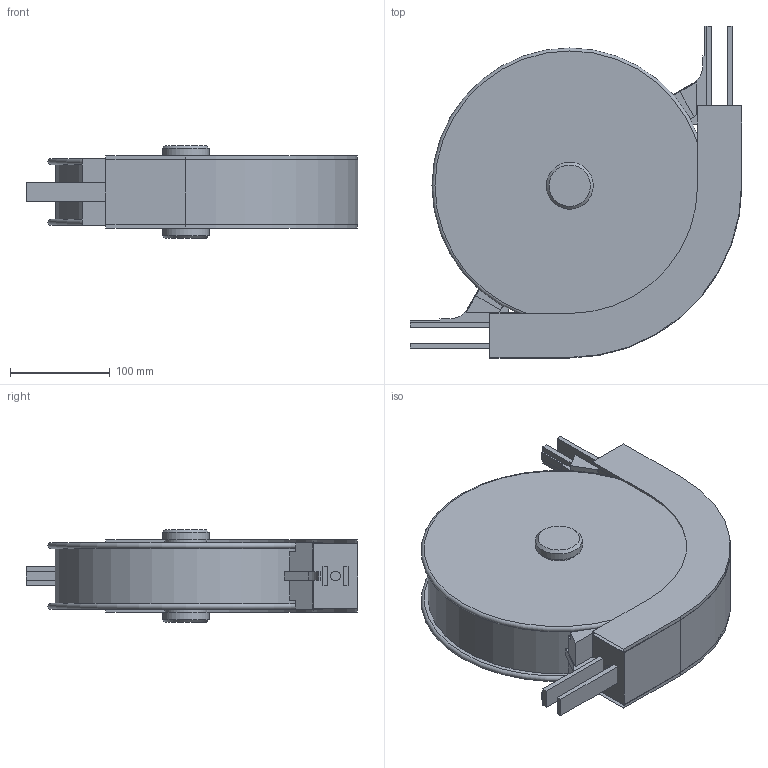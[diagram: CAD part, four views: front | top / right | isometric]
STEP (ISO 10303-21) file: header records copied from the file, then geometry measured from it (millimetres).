
FILE_DESCRIPTION(/* description */ ('Bogenrad 90°'),/* implementation_level */ '2;1');
FILE_NAME(/* name */ 'T:\vdz0\Step Daten Website\modulflex FS-System\Bogenräder\FSBH90R150A_43618.stp',/* time_stamp */ '2024-08-20T15:29:29+02:00',/* author */ ('lzb0'),/* organization */ ('modular automation GmbH'),/* preprocessor_version */ 'ST-DEVELOPER v18.1',/* originating_system */ 'Autodesk Inventor 2021',/* authorisation */ '');
FILE_SCHEMA (('AUTOMOTIVE_DESIGN { 1 0 10303 214 3 1 1 }'));
Length unit declared in the file: millimetre
Products named in the file (1): FSBH 90R150 A
Bounding box: 332.5 x 332.5 x 93 mm (x, y, z)
Volume: 5002919.3 mm3; surface area: 409612.6 mm2
Topology: 8 solids, 12 shells, 123 faces, 289 edges, 192 vertices
Faces by surface type: plane 104, cylinder 15, cone 2, torus 2
Full cylindrical faces by diameter (mm): 10 x2, 42 x2, 47 x2, 262 x1
Entity records: 3554 total; most frequent: CARTESIAN_POINT 605, DIRECTION 575, ORIENTED_EDGE 558, EDGE_CURVE 289, LINE 251, VECTOR 251, VERTEX_POINT 192, AXIS2_PLACEMENT_3D 162
